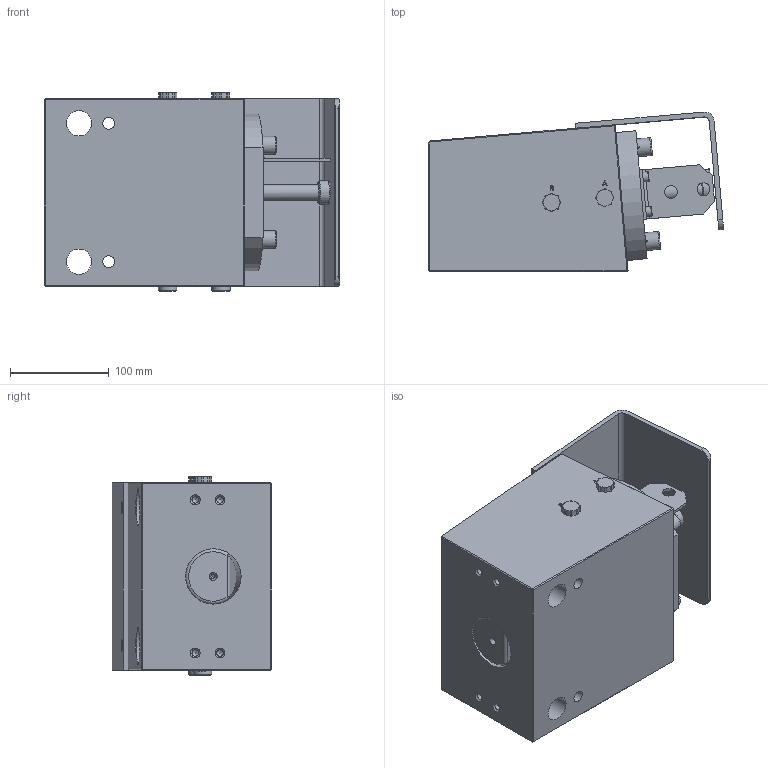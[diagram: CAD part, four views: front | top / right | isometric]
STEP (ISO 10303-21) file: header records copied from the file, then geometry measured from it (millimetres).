
FILE_DESCRIPTION((''),'2;1');
FILE_NAME('\\easAd\Users\breep\Desktop\MOD2010-400-RH-350-P-650(M24)-17-09-13.stp','2013-09-17T10:54:38',('breep'),(''),'Autodesk Inventor 2013','Autodesk Inventor 2013','');
FILE_SCHEMA(('AUTOMOTIVE_DESIGN { 1 0 10303 214 1 1 1 1 }'));
Length unit declared in the file: millimetre
Products named in the file (1): Part2
Bounding box: 298.65 x 161.48 x 201.1 mm (x, y, z)
Volume: 5369219.3 mm3; surface area: 501335.4 mm2
Topology: 2 solids, 17 shells, 620 faces, 1486 edges, 942 vertices
Faces by surface type: plane 285, cylinder 170, cone 94, torus 33, bspline 26, revolution 8, sphere 4
Full cylindrical faces by diameter (mm): 3.242 x1, 4 x3, 4.917 x8, 6 x10, 6.647 x4, 7 x5, 8 x3, 8.5 x1, 9 x2, 10 x2, 10.106 x4, 10.8 x2, 11.2 x2, 11.43 x6, 11.6 x2, 12 x8, 13 x6, 14 x2, 14.376 x1, 16 x3, 16.03 x1, 16.1 x1, 16.25 x1, 16.4 x3, 16.8 x3, 18 x5, 18.8 x2, 19.6 x1, 22.25 x2, 24 x1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
Entity records: 16690 total; most frequent: CARTESIAN_POINT 3402, DIRECTION 2643, ORIENTED_EDGE 2216, EDGE_CURVE 1108, AXIS2_PLACEMENT_3D 1076, EDGE_LOOP 958, VERTEX_POINT 817, STYLED_ITEM 622
